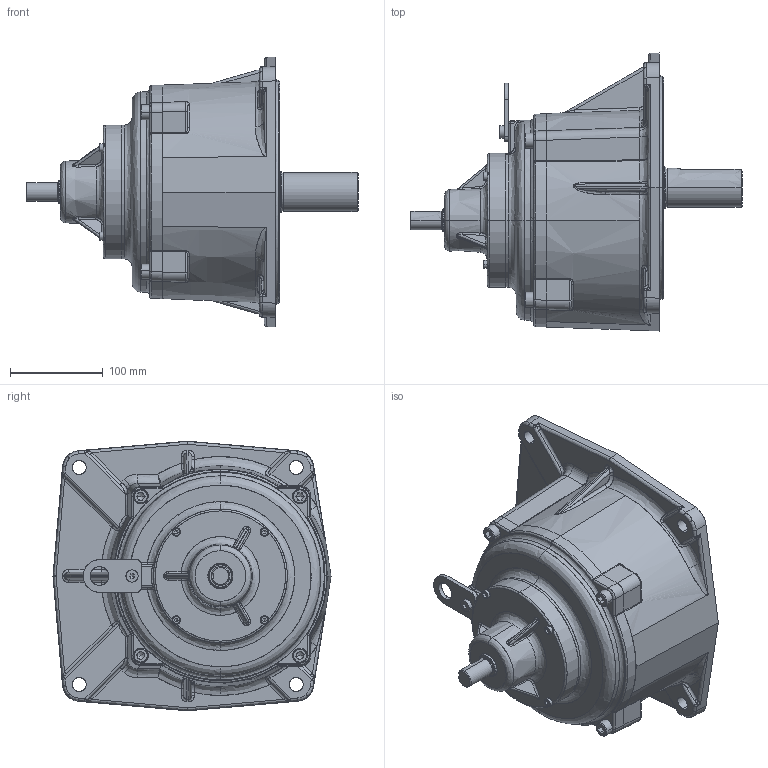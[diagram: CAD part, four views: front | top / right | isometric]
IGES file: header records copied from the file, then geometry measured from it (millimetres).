
Start section: SolidWorks IGES file using analytic representation for surfaces
Bounding box: 357 x 299 x 290 mm (x, y, z)
Surface area: 490827.4 mm2 (no closed solid volume)
Topology: 0 solids, 0 shells, 841 faces, 10227 edges, 10167 vertices
Faces by surface type: bspline 501, revolution 340
